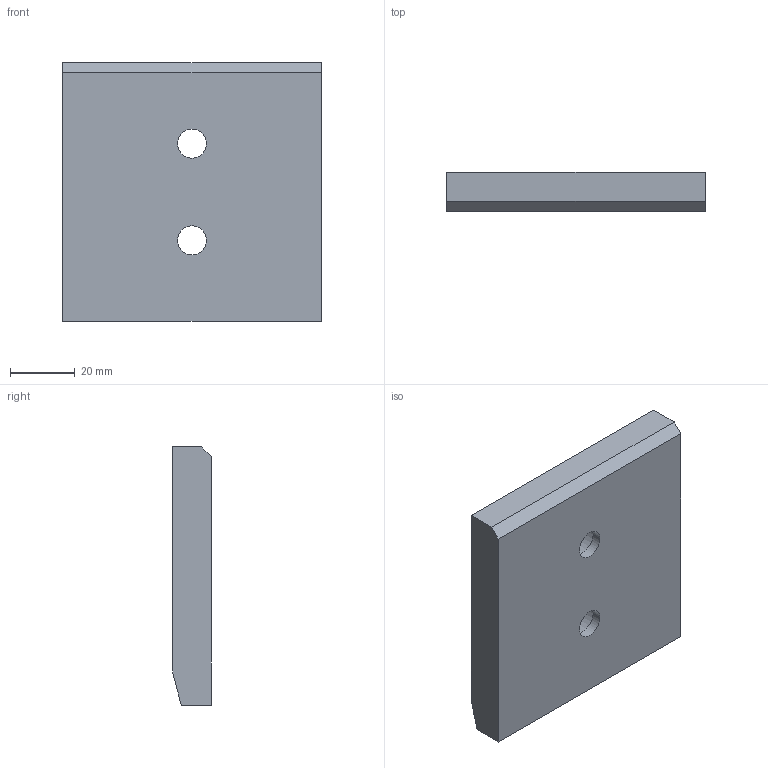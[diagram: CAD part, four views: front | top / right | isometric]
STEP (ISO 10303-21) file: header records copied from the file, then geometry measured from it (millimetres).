
FILE_DESCRIPTION (( 'STEP AP214' ), '1' );
FILE_NAME ('SW222-01-80x80.STEP', '2020-10-14T12:44:49', ( 'August' ), ( '' ), 'SwSTEP 2.0', 'SolidWorks 2018', '' );
FILE_SCHEMA (( 'AUTOMOTIVE_DESIGN' ));
Length unit declared in the file: millimetre
Products named in the file (1): SW222-01-80x80
Bounding box: 80 x 12 x 80 mm (x, y, z)
Volume: 62563.3 mm3; surface area: 21627.7 mm2
Topology: 1 solids, 1 shells, 104 faces, 215 edges, 142 vertices
Faces by surface type: cylinder 63, plane 37, cone 4
Entity records: 3112 total; most frequent: DIRECTION 555, CARTESIAN_POINT 462, ORIENTED_EDGE 430, AXIS2_PLACEMENT_3D 235, EDGE_CURVE 215, VERTEX_POINT 142, EDGE_LOOP 137, CIRCLE 130
